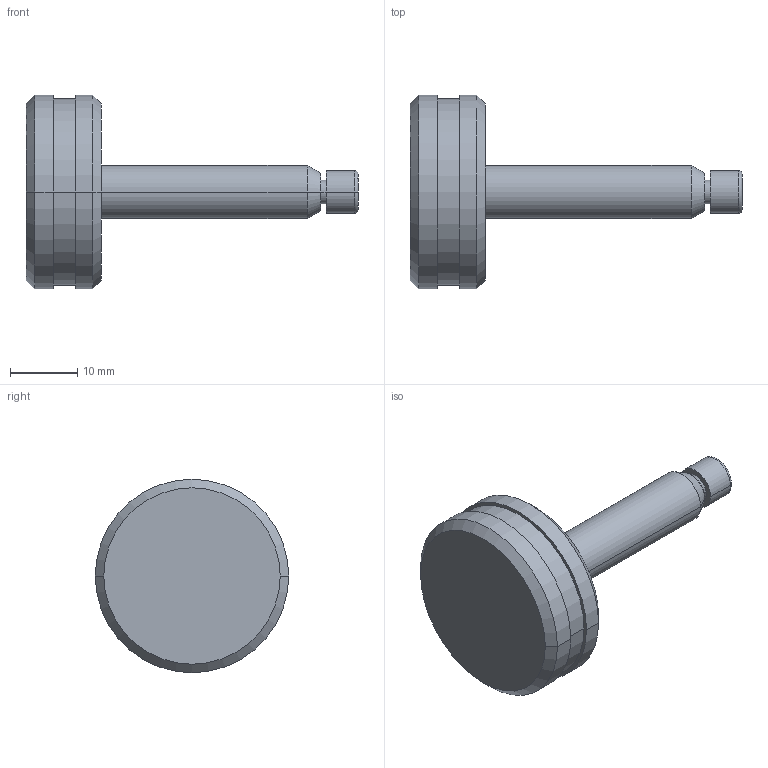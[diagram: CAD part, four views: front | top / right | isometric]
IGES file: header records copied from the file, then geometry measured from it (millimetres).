
Start section:  PTC IGES file: sch334-part.igs
Global section: file name: sch334-part.igs; native system: Pro/ENGINEER by Parametric Technology Corporation; preprocessor: 2002350; author: chant; organization: Unknown; date: 070529.153933; units: inch
Bounding box: 49.25 x 28.7 x 28.7 mm (x, y, z)
Surface area: 3270.3 mm2 (no closed solid volume)
Topology: 0 solids, 0 shells, 33 faces, 172 edges, 194 vertices
Faces by surface type: revolution 26, bspline 7
